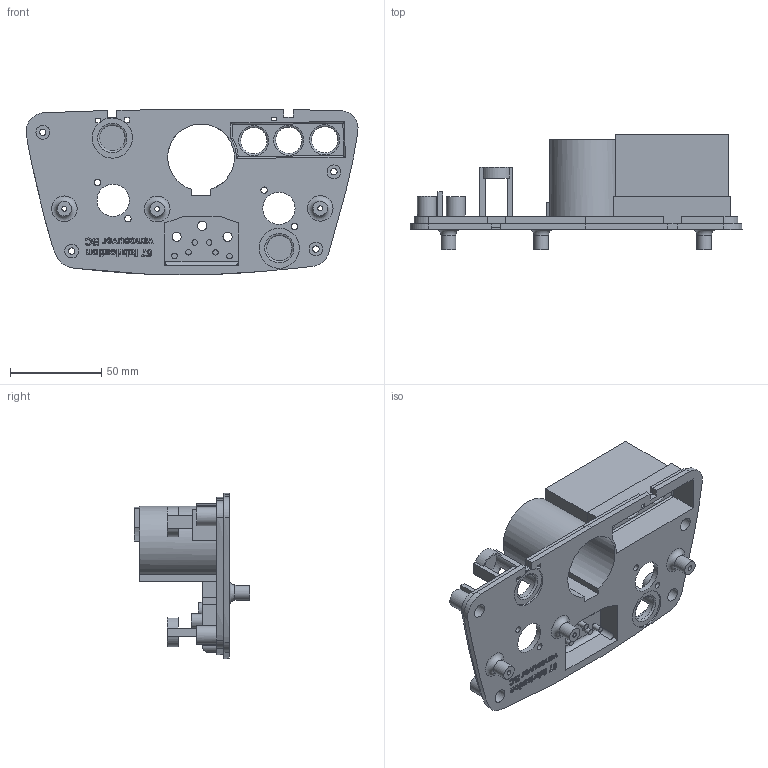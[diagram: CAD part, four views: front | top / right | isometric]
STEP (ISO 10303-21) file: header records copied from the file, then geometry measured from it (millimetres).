
FILE_DESCRIPTION(/* description */ (''),/* implementation_level */ '2;1');
FILE_NAME(/* name */ 'ts200r-meter-case.step',/* time_stamp */ '2026-06-04T15:58:35-07:00',/* author */ (''),/* organization */ (''),/* preprocessor_version */ 'ST-DEVELOPER v20.1',/* originating_system */ 'Autodesk Translation Framework v15.8.0.0',/* authorisation */ '');
FILE_SCHEMA (('AUTOMOTIVE_DESIGN { 1 0 10303 214 3 1 1 }'));
Length unit declared in the file: millimetre
Products named in the file (1): (Unsaved)
Bounding box: 181.58 x 63 x 90.48 mm (x, y, z)
Volume: 61785.6 mm3; surface area: 71812.9 mm2
Topology: 1 solids, 1 shells, 761 faces, 2090 edges, 1388 vertices
Faces by surface type: bspline 347, plane 314, cylinder 91, torus 9
Full cylindrical faces by diameter (mm): 2.5 x4, 2.7 x3, 3 x6, 3.5 x8, 5 x3, 7.5 x4, 8 x6, 10.25 x4, 14 x2, 14.5 x3, 17.65 x2
Entity records: 27989 total; most frequent: CARTESIAN_POINT 10699, ORIENTED_EDGE 4180, DIRECTION 2444, EDGE_CURVE 2090, VERTEX_POINT 1388, LINE 1174, VECTOR 1174, EDGE_LOOP 872
